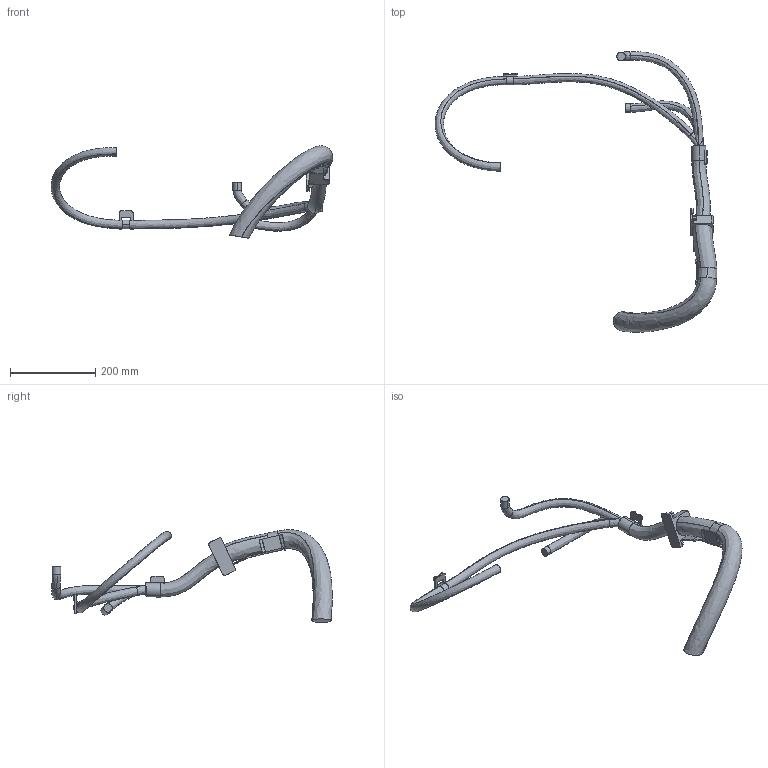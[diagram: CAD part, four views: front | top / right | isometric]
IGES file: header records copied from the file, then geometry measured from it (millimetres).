
Start section: SolidWorks IGES file using analytic representation for surfaces
Global section: file name: C:\Data\SAP_DOC\IRB6740_lightweight\6740\IRB6740-LID-MH_220kg-320_OC_01_SW_J\IRB6740-LID-MH_220kg-320_OC_01_IGES_J\IRB6740-LID_220kg-320_OC_00_LINK03m_CABLE.igs; native system: SolidWorks 2024; preprocessor: SolidWorks 2024; author: SEJAOLS6; date: 260513.070808; units: millimetre
Bounding box: 660.98 x 658.17 x 217.52 mm (x, y, z)
Surface area: 208641.5 mm2 (no closed solid volume)
Topology: 0 solids, 0 shells, 221 faces, 3006 edges, 3003 vertices
Faces by surface type: bspline 140, revolution 81
